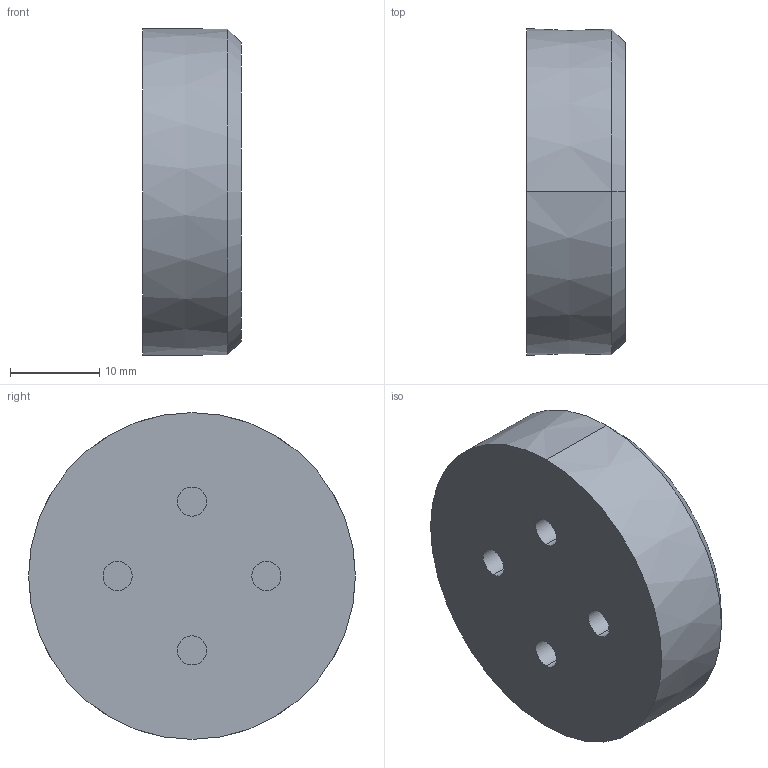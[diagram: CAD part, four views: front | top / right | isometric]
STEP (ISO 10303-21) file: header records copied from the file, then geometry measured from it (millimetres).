
FILE_DESCRIPTION (( 'STEP AP214' ), '1' );
FILE_NAME ('30l-cap-check-plug.STEP', '2012-11-12T21:42:59', ( '' ), ( '' ), 'SwSTEP 2.0', 'SolidWorks 2012', '' );
FILE_SCHEMA (( 'AUTOMOTIVE_DESIGN' ));
Length unit declared in the file: inch
Products named in the file (1): 30l-cap-check-plug
Bounding box: 11.05 x 36.6 x 36.6 mm (x, y, z)
Volume: 11237.7 mm3; surface area: 3520.2 mm2
Topology: 1 solids, 1 shells, 18 faces, 34 edges, 22 vertices
Faces by surface type: cylinder 8, plane 6, cone 4
Entity records: 543 total; most frequent: DIRECTION 94, CARTESIAN_POINT 75, ORIENTED_EDGE 68, AXIS2_PLACEMENT_3D 41, EDGE_CURVE 34, VERTEX_POINT 22, EDGE_LOOP 22, CIRCLE 22
